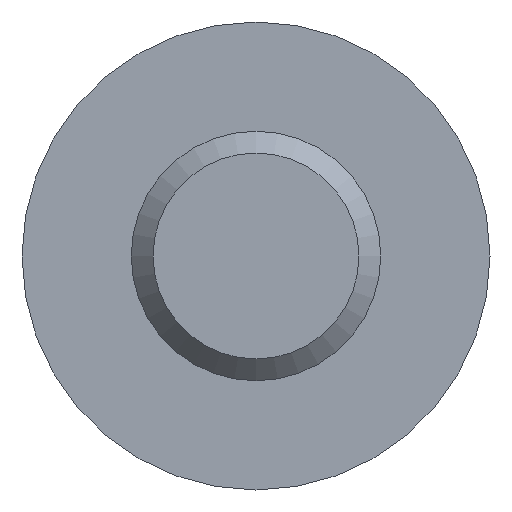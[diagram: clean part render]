
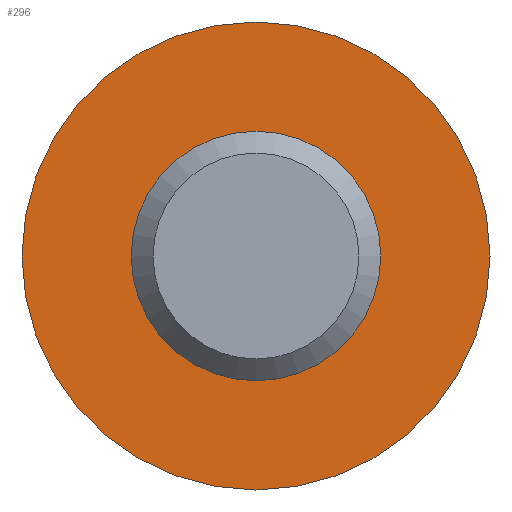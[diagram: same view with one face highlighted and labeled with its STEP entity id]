
A CAD part, front view. The second image highlights one B-rep face of the part: STEP entity #296.
In plain terms, the highlighted planar face has unit normal (0, -1, 0).
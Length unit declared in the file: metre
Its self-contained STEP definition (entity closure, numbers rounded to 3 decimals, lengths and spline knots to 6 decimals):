
#19=FACE_BOUND('',#53,.T.);
#31=FACE_OUTER_BOUND('',#52,.T.);
#52=EDGE_LOOP('',(#214));
#53=EDGE_LOOP('',(#215));
#123=CIRCLE('',#324,0.002);
#125=CIRCLE('',#327,0.00375);
#143=VERTEX_POINT('',#471);
#145=VERTEX_POINT('',#476);
#173=EDGE_CURVE('',#143,#143,#123,.T.);
#175=EDGE_CURVE('',#145,#145,#125,.T.);
#214=ORIENTED_EDGE('',*,*,#175,.T.);
#215=ORIENTED_EDGE('',*,*,#173,.F.);
#280=PLANE('',#326);
#296=ADVANCED_FACE('',(#31,#19),#280,.T.);
#324=AXIS2_PLACEMENT_3D('',#472,#380,#381);
#326=AXIS2_PLACEMENT_3D('',#475,#384,#385);
#327=AXIS2_PLACEMENT_3D('',#477,#386,#387);
#380=DIRECTION('center_axis',(0.,-1.,0.));
#381=DIRECTION('ref_axis',(1.,0.,0.));
#384=DIRECTION('center_axis',(0.,-1.,0.));
#385=DIRECTION('ref_axis',(0.,0.,-1.));
#386=DIRECTION('center_axis',(0.,-1.,0.));
#387=DIRECTION('ref_axis',(1.,0.,0.));
#471=CARTESIAN_POINT('',(0.002,0.,0.));
#472=CARTESIAN_POINT('Origin',(0.,0.,0.));
#475=CARTESIAN_POINT('Origin',(0.,0.,
0.));
#476=CARTESIAN_POINT('',(0.00375,0.,0.));
#477=CARTESIAN_POINT('Origin',(0.,0.,
0.));
